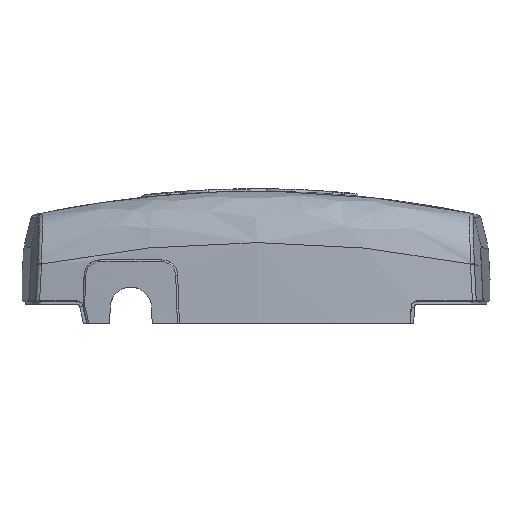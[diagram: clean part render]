
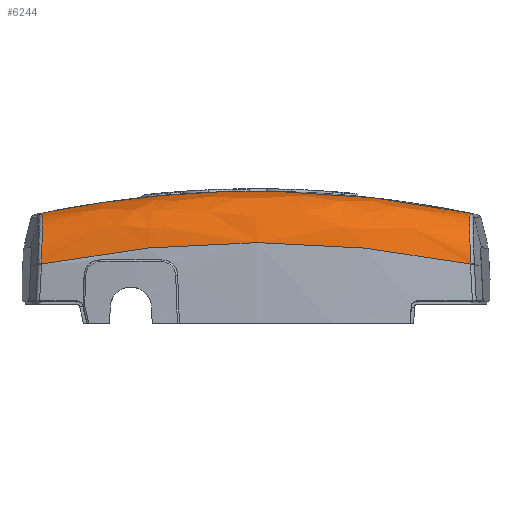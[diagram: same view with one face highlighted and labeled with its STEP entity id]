
A CAD part, front view. The second image highlights one B-rep face of the part: STEP entity #6244.
In plain terms, the highlighted free-form (B-spline) face has degree [3, 3] with [4, 9] control points.
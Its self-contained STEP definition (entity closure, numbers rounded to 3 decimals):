
#1119=CARTESIAN_POINT('',(-33.634,-66.491,
133.588));
#1120=CARTESIAN_POINT('',(-22.652,-68.099,
135.804));
#1121=CARTESIAN_POINT('',(0.,-69.785,
138.086));
#1122=CARTESIAN_POINT('',(22.652,-68.099,135.804));
#1123=CARTESIAN_POINT('',(33.633,-66.491,133.588));
#1413=CARTESIAN_POINT('',(-33.6,-58.169,
141.558));
#1753=CARTESIAN_POINT('',(33.6,-58.169,141.558));
#1770=CARTESIAN_POINT('',(33.6,-58.169,141.558));
#1771=CARTESIAN_POINT('',(33.593,-58.475,141.559));
#1772=CARTESIAN_POINT('',(33.58,-59.087,141.529));
#1773=CARTESIAN_POINT('',(33.564,-59.988,141.385));
#1774=CARTESIAN_POINT('',(33.551,-60.862,141.145));
#1775=CARTESIAN_POINT('',(33.542,-61.7,140.813));
#1776=CARTESIAN_POINT('',(33.535,-62.495,140.392));
#1777=CARTESIAN_POINT('',(33.532,-63.237,139.888));
#1778=CARTESIAN_POINT('',(33.532,-63.921,139.305));
#1779=CARTESIAN_POINT('',(33.536,-64.538,138.65));
#1780=CARTESIAN_POINT('',(33.543,-65.083,137.928));
#1781=CARTESIAN_POINT('',(33.554,-65.547,137.146));
#1782=CARTESIAN_POINT('',(33.568,-65.927,136.313));
#1783=CARTESIAN_POINT('',(33.586,-66.217,135.436));
#1784=CARTESIAN_POINT('',(33.608,-66.411,134.526));
#1785=CARTESIAN_POINT('',(33.624,-66.476,133.901));
#1786=CARTESIAN_POINT('',(33.633,-66.491,133.588));
#1788=CARTESIAN_POINT('',(-33.634,-66.491,
133.588));
#1789=CARTESIAN_POINT('',(-33.624,-66.475,
133.901));
#1790=CARTESIAN_POINT('',(-33.607,-66.411,
134.526));
#1791=CARTESIAN_POINT('',(-33.586,-66.217,
135.437));
#1792=CARTESIAN_POINT('',(-33.568,-65.927,
136.314));
#1793=CARTESIAN_POINT('',(-33.554,-65.547,
137.147));
#1794=CARTESIAN_POINT('',(-33.543,-65.082,
137.928));
#1795=CARTESIAN_POINT('',(-33.536,-64.538,
138.65));
#1796=CARTESIAN_POINT('',(-33.532,-63.921,
139.305));
#1797=CARTESIAN_POINT('',(-33.532,-63.237,
139.888));
#1798=CARTESIAN_POINT('',(-33.535,-62.494,
140.393));
#1799=CARTESIAN_POINT('',(-33.542,-61.699,
140.813));
#1800=CARTESIAN_POINT('',(-33.551,-60.861,
141.145));
#1801=CARTESIAN_POINT('',(-33.564,-59.987,
141.385));
#1802=CARTESIAN_POINT('',(-33.58,-59.088,
141.529));
#1803=CARTESIAN_POINT('',(-33.593,-58.475,
141.559));
#1804=CARTESIAN_POINT('',(-33.6,-58.169,
141.558));
#1806=CARTESIAN_POINT('',(-33.6,-58.169,
141.558));
#1807=CARTESIAN_POINT('',(-29.875,-58.678,
142.329));
#1808=CARTESIAN_POINT('',(-22.402,-59.525,
143.607));
#1809=CARTESIAN_POINT('',(-11.271,-60.282,
144.743));
#1810=CARTESIAN_POINT('',(-0.001,-60.54,
145.129));
#1811=CARTESIAN_POINT('',(11.268,-60.282,144.743));
#1812=CARTESIAN_POINT('',(22.402,-59.525,143.607));
#1813=CARTESIAN_POINT('',(29.875,-58.678,142.329));
#1814=CARTESIAN_POINT('',(33.6,-58.169,141.558));
#3135=VERTEX_POINT('',#1753);
#3138=CARTESIAN_POINT('',(33.633,-66.491,133.588));
#3140=VERTEX_POINT('',#3138);
#3210=VERTEX_POINT('',#1413);
#3212=VERTEX_POINT('',#1788);
#6200=CARTESIAN_POINT('',(34.316,-66.4,133.186));
#6201=CARTESIAN_POINT('',(30.82,-66.922,133.907));
#6202=CARTESIAN_POINT('',(23.397,-67.861,135.197));
#6203=CARTESIAN_POINT('',(11.921,-68.747,136.408));
#6204=CARTESIAN_POINT('',(-0.012,-69.054,
136.827));
#6205=CARTESIAN_POINT('',(-11.943,-68.746,
136.407));
#6206=CARTESIAN_POINT('',(-23.41,-67.859,
135.194));
#6207=CARTESIAN_POINT('',(-30.824,-66.922,
133.906));
#6208=CARTESIAN_POINT('',(-34.311,-66.4,
133.187));
#6209=CARTESIAN_POINT('',(35.329,-66.131,138.087));
#6210=CARTESIAN_POINT('',(31.734,-66.686,138.831));
#6211=CARTESIAN_POINT('',(24.098,-67.682,140.16));
#6212=CARTESIAN_POINT('',(12.281,-68.624,141.411));
#6213=CARTESIAN_POINT('',(-0.012,-68.951,
141.842));
#6214=CARTESIAN_POINT('',(-12.304,-68.623,
141.409));
#6215=CARTESIAN_POINT('',(-24.111,-67.68,
140.158));
#6216=CARTESIAN_POINT('',(-31.739,-66.685,
138.83));
#6217=CARTESIAN_POINT('',(-35.324,-66.132,
138.088));
#6218=CARTESIAN_POINT('',(35.499,-62.425,141.458));
#6219=CARTESIAN_POINT('',(31.891,-62.994,142.218));
#6220=CARTESIAN_POINT('',(24.221,-64.016,143.576));
#6221=CARTESIAN_POINT('',(12.346,-64.983,144.854));
#6222=CARTESIAN_POINT('',(-0.012,-65.318,
145.296));
#6223=CARTESIAN_POINT('',(-12.369,-64.981,
144.853));
#6224=CARTESIAN_POINT('',(-24.235,-64.014,
143.574));
#6225=CARTESIAN_POINT('',(-31.895,-62.993,
142.217));
#6226=CARTESIAN_POINT('',(-35.495,-62.426,
141.459));
#6227=CARTESIAN_POINT('',(34.727,-57.475,141.303));
#6228=CARTESIAN_POINT('',(31.197,-58.032,142.063));
#6229=CARTESIAN_POINT('',(23.695,-59.031,143.423));
#6230=CARTESIAN_POINT('',(12.077,-59.977,144.702));
#6231=CARTESIAN_POINT('',(-0.012,-60.305,
145.144));
#6232=CARTESIAN_POINT('',(-12.1,-59.976,
144.7));
#6233=CARTESIAN_POINT('',(-23.708,-59.029,
143.421));
#6234=CARTESIAN_POINT('',(-31.202,-58.031,
142.062));
#6235=CARTESIAN_POINT('',(-34.723,-57.476,
141.304));
#6236=(BOUNDED_SURFACE()B_SPLINE_SURFACE(3,3,((#6200,#6201,#6202,#6203,#6204,
#6205,#6206,#6207,#6208),(#6209,#6210,#6211,#6212,#6213,#6214,#6215,#6216,
#6217),(#6218,#6219,#6220,#6221,#6222,#6223,#6224,#6225,#6226),(#6227,#6228,
#6229,#6230,#6231,#6232,#6233,#6234,#6235)),.UNSPECIFIED.,.F.,.F.,.F.)B_SPLINE_SURFACE_WITH_KNOTS((4,4),(4,1,1,1,1,1,4),(0.,1.),(0.018,
0.169,0.334,0.5,0.666,
0.831,0.981),.UNSPECIFIED.)GEOMETRIC_REPRESENTATION_ITEM()RATIONAL_B_SPLINE_SURFACE(((1.174,1.174,1.174,
1.174,1.174,1.174,1.174,
1.174,1.174),(0.942,0.942,
0.942,0.942,0.942,0.942,
0.942,0.942,0.942),(0.942,
0.942,0.942,0.942,0.942,
0.942,0.942,0.942,0.942),(
1.174,1.174,1.174,1.174,
1.174,1.174,1.174,1.174,
1.174)))REPRESENTATION_ITEM('')SURFACE());
#6237=ORIENTED_EDGE('',*,*,#6194,.T.);
#6238=ORIENTED_EDGE('',*,*,#4945,.F.);
#6240=ORIENTED_EDGE('',*,*,#6239,.T.);
#6241=ORIENTED_EDGE('',*,*,#6045,.T.);
#6242=EDGE_LOOP('',(#6237,#6238,#6240,#6241));
#6243=FACE_OUTER_BOUND('',#6242,.F.);
#6244=ADVANCED_FACE('',(#6243),#6236,.T.);
#1124=B_SPLINE_CURVE_WITH_KNOTS('',3,(#1119,#1120,#1121,#1122,#1123),
.UNSPECIFIED.,.F.,.F.,(4,1,4),(0.,0.5,1.),.UNSPECIFIED.);
#1787=B_SPLINE_CURVE_WITH_KNOTS('',3,(#1770,#1771,#1772,#1773,#1774,#1775,#1776,
#1777,#1778,#1779,#1780,#1781,#1782,#1783,#1784,#1785,#1786),.UNSPECIFIED.,.F.,
.F.,(4,1,1,1,1,1,1,1,1,1,1,1,1,1,4),(0.,0.071,0.143,
0.214,0.286,0.357,0.429,0.5,
0.571,0.643,0.714,0.786,
0.857,0.929,1.),.UNSPECIFIED.);
#1805=B_SPLINE_CURVE_WITH_KNOTS('',3,(#1788,#1789,#1790,#1791,#1792,#1793,#1794,
#1795,#1796,#1797,#1798,#1799,#1800,#1801,#1802,#1803,#1804),.UNSPECIFIED.,.F.,
.F.,(4,1,1,1,1,1,1,1,1,1,1,1,1,1,4),(0.,0.071,0.143,
0.214,0.286,0.357,0.429,0.5,
0.571,0.643,0.714,0.786,
0.857,0.929,1.),.UNSPECIFIED.);
#1815=B_SPLINE_CURVE_WITH_KNOTS('',3,(#1806,#1807,#1808,#1809,#1810,#1811,#1812,
#1813,#1814),.UNSPECIFIED.,.F.,.F.,(4,1,1,1,1,1,4),(0.,0.167,
0.333,0.5,0.667,0.833,1.),
.UNSPECIFIED.);
#4945=EDGE_CURVE('',#3212,#3140,#1124,.T.);
#6045=EDGE_CURVE('',#3210,#3135,#1815,.T.);
#6194=EDGE_CURVE('',#3135,#3140,#1787,.T.);
#6239=EDGE_CURVE('',#3212,#3210,#1805,.T.);
